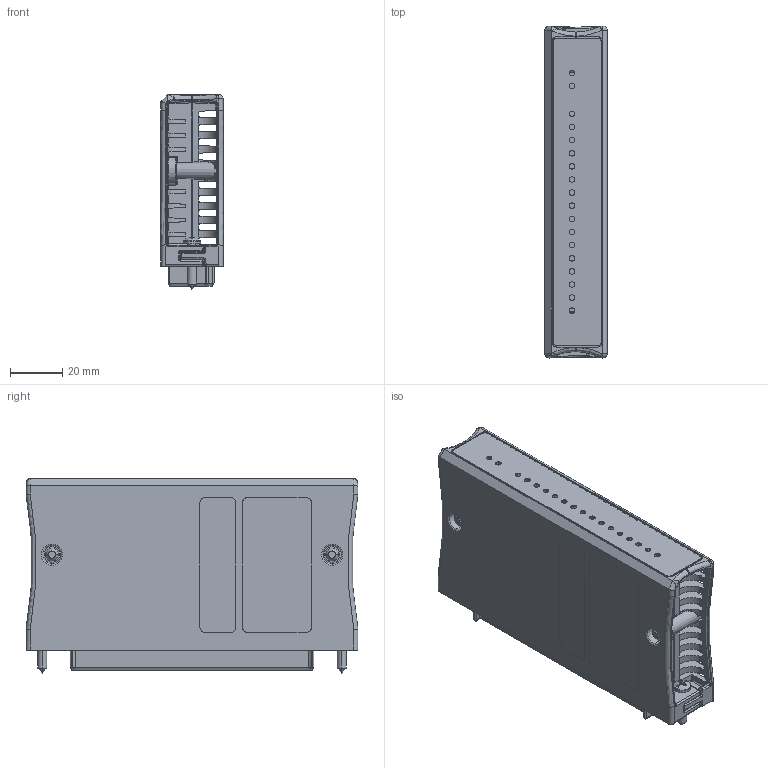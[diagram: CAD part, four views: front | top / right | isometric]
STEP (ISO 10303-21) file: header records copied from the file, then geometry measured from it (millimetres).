
FILE_DESCRIPTION((''),'2;1');
FILE_NAME('CFP_IOMOD_SINGLE','2007-03-05T',('chrisj'),(''),'PRO/ENGINEER BY PARAMETRIC TECHNOLOGY CORPORATION, 2006300','PRO/ENGINEER BY PARAMETRIC TECHNOLOGY CORPORATION, 2006300','');
FILE_SCHEMA(('AUTOMOTIVE_DESIGN_CC2 { 1 2 10303 214 -1 1 5 2 }'));
Products named in the file (1): CFP_IOMOD_SINGLE
Bounding box: 23.88 x 127.06 x 74.53 mm (x, y, z)
Volume: 59835.5 mm3; surface area: 61491.1 mm2
Topology: 3 solids, 3 shells, 3274 faces, 8921 edges, 5692 vertices
Faces by surface type: plane 2153, cylinder 657, bspline 282, cone 68, sphere 63, torus 51
Entity records: 118277 total; most frequent: CARTESIAN_POINT 38930, ORIENTED_EDGE 17746, DIRECTION 14225, EDGE_CURVE 8873, VECTOR 6517, LINE 6517, VERTEX_POINT 5730, AXIS2_PLACEMENT_3D 3854
